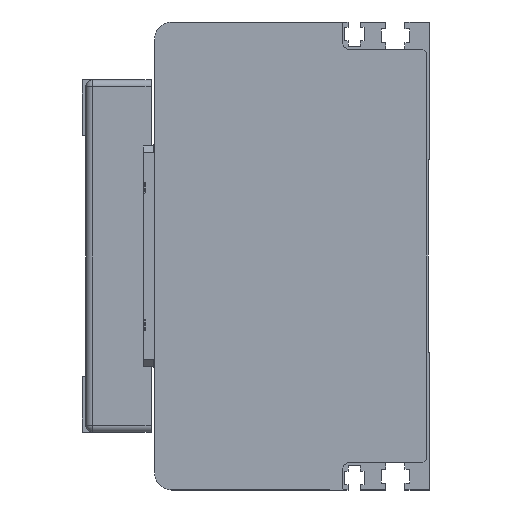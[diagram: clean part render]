
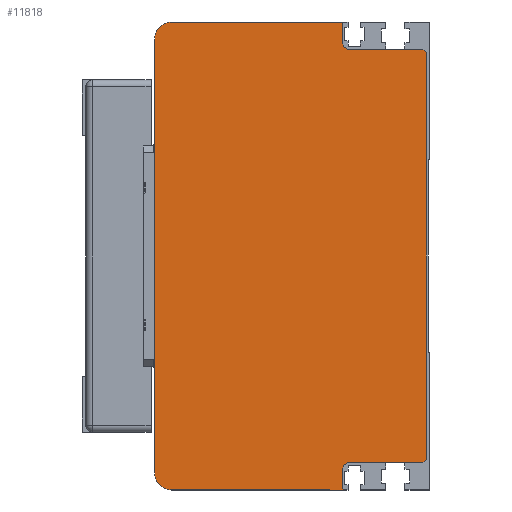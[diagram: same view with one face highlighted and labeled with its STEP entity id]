
A CAD part, left-side view. The second image highlights one B-rep face of the part: STEP entity #11818.
In plain terms, the highlighted planar face has unit normal (-1, 0, 0) as drawn and (0, 0, -1) by its records, which use the part's own axes.
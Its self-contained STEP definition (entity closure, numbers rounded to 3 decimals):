
#933=FACE_OUTER_BOUND('',#1642,.T.);
#1642=EDGE_LOOP('',(#8201,#8202,#8203,#8204,#8205,#8206,#8207,#8208,#8209,
#8210,#8211,#8212,#8213,#8214));
#2408=CIRCLE('',#12662,2.);
#2409=CIRCLE('',#12663,5.);
#2410=CIRCLE('',#12664,5.);
#2411=CIRCLE('',#12665,2.);
#2686=LINE('',#16783,#3829);
#2687=LINE('',#16785,#3830);
#2688=LINE('',#16787,#3831);
#2689=LINE('',#16789,#3832);
#2690=LINE('',#16793,#3833);
#2691=LINE('',#16795,#3834);
#2692=LINE('',#16799,#3835);
#2693=LINE('',#16803,#3836);
#2694=LINE('',#16805,#3837);
#2695=LINE('',#16808,#3838);
#3829=VECTOR('',#13833,1.414);
#3830=VECTOR('',#13834,118.);
#3831=VECTOR('',#13835,1.414);
#3832=VECTOR('',#13836,21.3);
#3833=VECTOR('',#13839,6.);
#3834=VECTOR('',#13840,49.7);
#3835=VECTOR('',#13843,126.);
#3836=VECTOR('',#13846,49.7);
#3837=VECTOR('',#13847,6.);
#3838=VECTOR('',#13850,21.3);
#5034=VERTEX_POINT('',#16781);
#5035=VERTEX_POINT('',#16782);
#5036=VERTEX_POINT('',#16784);
#5037=VERTEX_POINT('',#16786);
#5038=VERTEX_POINT('',#16788);
#5039=VERTEX_POINT('',#16790);
#5040=VERTEX_POINT('',#16792);
#5041=VERTEX_POINT('',#16794);
#5042=VERTEX_POINT('',#16796);
#5043=VERTEX_POINT('',#16798);
#5044=VERTEX_POINT('',#16800);
#5045=VERTEX_POINT('',#16802);
#5046=VERTEX_POINT('',#16804);
#5047=VERTEX_POINT('',#16806);
#6276=EDGE_CURVE('',#5034,#5035,#2686,.T.);
#6277=EDGE_CURVE('',#5034,#5036,#2687,.T.);
#6278=EDGE_CURVE('',#5037,#5036,#2688,.T.);
#6279=EDGE_CURVE('',#5037,#5038,#2689,.T.);
#6280=EDGE_CURVE('',#5039,#5038,#2408,.T.);
#6281=EDGE_CURVE('',#5039,#5040,#2690,.T.);
#6282=EDGE_CURVE('',#5040,#5041,#2691,.T.);
#6283=EDGE_CURVE('',#5041,#5042,#2409,.T.);
#6284=EDGE_CURVE('',#5042,#5043,#2692,.T.);
#6285=EDGE_CURVE('',#5043,#5044,#2410,.T.);
#6286=EDGE_CURVE('',#5044,#5045,#2693,.T.);
#6287=EDGE_CURVE('',#5045,#5046,#2694,.T.);
#6288=EDGE_CURVE('',#5047,#5046,#2411,.T.);
#6289=EDGE_CURVE('',#5047,#5035,#2695,.T.);
#8201=ORIENTED_EDGE('',*,*,#6276,.F.);
#8202=ORIENTED_EDGE('',*,*,#6277,.T.);
#8203=ORIENTED_EDGE('',*,*,#6278,.F.);
#8204=ORIENTED_EDGE('',*,*,#6279,.T.);
#8205=ORIENTED_EDGE('',*,*,#6280,.F.);
#8206=ORIENTED_EDGE('',*,*,#6281,.T.);
#8207=ORIENTED_EDGE('',*,*,#6282,.T.);
#8208=ORIENTED_EDGE('',*,*,#6283,.T.);
#8209=ORIENTED_EDGE('',*,*,#6284,.T.);
#8210=ORIENTED_EDGE('',*,*,#6285,.T.);
#8211=ORIENTED_EDGE('',*,*,#6286,.T.);
#8212=ORIENTED_EDGE('',*,*,#6287,.T.);
#8213=ORIENTED_EDGE('',*,*,#6288,.F.);
#8214=ORIENTED_EDGE('',*,*,#6289,.T.);
#11240=PLANE('',#12661);
#11818=ADVANCED_FACE('',(#933),#11240,.T.);
#12661=AXIS2_PLACEMENT_3D('',#16780,#13831,#13832);
#12662=AXIS2_PLACEMENT_3D('',#16791,#13837,#13838);
#12663=AXIS2_PLACEMENT_3D('',#16797,#13841,#13842);
#12664=AXIS2_PLACEMENT_3D('',#16801,#13844,#13845);
#12665=AXIS2_PLACEMENT_3D('',#16807,#13848,#13849);
#13831=DIRECTION('center_axis',(0.,0.,-1.));
#13832=DIRECTION('ref_axis',(0.,-1.,0.));
#13833=DIRECTION('',(0.707,0.707,0.));
#13834=DIRECTION('',(-1.,0.,0.));
#13835=DIRECTION('',(0.707,-0.707,0.));
#13836=DIRECTION('',(0.,1.,0.));
#13837=DIRECTION('center_axis',(0.,0.,-1.));
#13838=DIRECTION('ref_axis',(0.707,0.707,0.));
#13839=DIRECTION('',(-1.,0.,0.));
#13840=DIRECTION('',(0.,1.,0.));
#13841=DIRECTION('center_axis',(0.,0.,-1.));
#13842=DIRECTION('ref_axis',(-1.,0.,0.));
#13843=DIRECTION('',(1.,0.,0.));
#13844=DIRECTION('center_axis',(0.,0.,-1.));
#13845=DIRECTION('ref_axis',(0.,1.,0.));
#13846=DIRECTION('',(0.,-1.,0.));
#13847=DIRECTION('',(-1.,0.,0.));
#13848=DIRECTION('center_axis',(0.,0.,-1.));
#13849=DIRECTION('ref_axis',(-0.707,0.707,0.));
#13850=DIRECTION('',(0.,-1.,0.));
#16780=CARTESIAN_POINT('Origin',(-29.,-60.,-200.));
#16781=CARTESIAN_POINT('',(66.,-74.,-200.));
#16782=CARTESIAN_POINT('',(67.,-73.,-200.));
#16783=CARTESIAN_POINT('',(46.,-94.,-200.));
#16784=CARTESIAN_POINT('',(-52.,-74.,-200.));
#16785=CARTESIAN_POINT('',(-11.,-74.,-200.));
#16786=CARTESIAN_POINT('',(-53.,-73.,-200.));
#16787=CARTESIAN_POINT('',(-50.,-76.,-200.));
#16788=CARTESIAN_POINT('',(-53.,-51.7,-200.));
#16789=CARTESIAN_POINT('',(-53.,-67.,-200.));
#16790=CARTESIAN_POINT('',(-55.,-49.7,-200.));
#16791=CARTESIAN_POINT('Origin',(-55.,-51.7,-200.));
#16792=CARTESIAN_POINT('',(-61.,-49.7,-200.));
#16793=CARTESIAN_POINT('',(-41.,-49.7,-200.));
#16794=CARTESIAN_POINT('',(-61.,0.,-200.));
#16795=CARTESIAN_POINT('',(-61.,-51.25,-200.));
#16796=CARTESIAN_POINT('',(-56.,5.,-200.));
#16797=CARTESIAN_POINT('Origin',(-56.,0.,
-200.));
#16798=CARTESIAN_POINT('',(70.,5.,-200.));
#16799=CARTESIAN_POINT('',(-56.,5.,-200.));
#16800=CARTESIAN_POINT('',(75.,0.,-200.));
#16801=CARTESIAN_POINT('Origin',(70.,0.,
-200.));
#16802=CARTESIAN_POINT('',(75.,-49.7,-200.));
#16803=CARTESIAN_POINT('',(75.,0.,-200.));
#16804=CARTESIAN_POINT('',(69.,-49.7,-200.));
#16805=CARTESIAN_POINT('',(19.,-49.7,-200.));
#16806=CARTESIAN_POINT('',(67.,-51.7,-200.));
#16807=CARTESIAN_POINT('Origin',(69.,-51.7,-200.));
#16808=CARTESIAN_POINT('',(67.,-67.,-200.));
